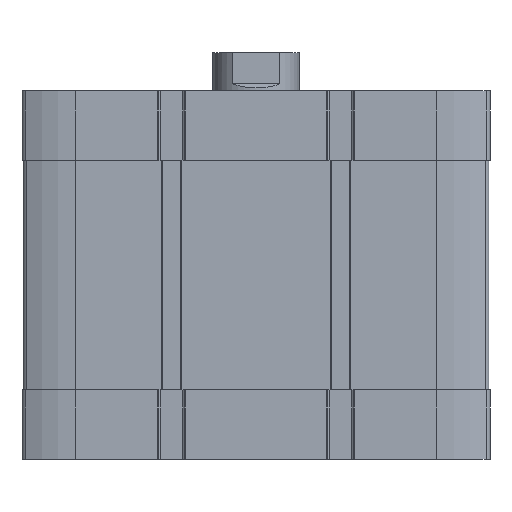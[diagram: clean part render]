
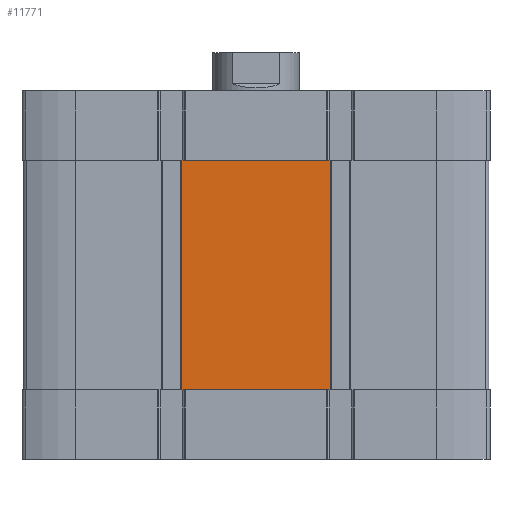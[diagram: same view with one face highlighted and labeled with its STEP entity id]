
A CAD part, front view. The second image highlights one B-rep face of the part: STEP entity #11771.
In plain terms, the highlighted planar face has unit normal (0, -1, 0).
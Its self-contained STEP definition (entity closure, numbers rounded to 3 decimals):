
#38 = DIRECTION ( 'NONE',  ( 0., 0., 1. ) ) ;
#131 = DIRECTION ( 'NONE',  ( 1., 0., 0. ) ) ;
#665 = CARTESIAN_POINT ( 'NONE',  ( 21.3, -67., -86. ) ) ;
#1025 = CARTESIAN_POINT ( 'NONE',  ( -67., -67., -86. ) ) ;
#1179 = DIRECTION ( 'NONE',  ( 0., -1., 0. ) ) ;
#1511 = FACE_OUTER_BOUND ( 'NONE', #2891, .T. ) ;
#1650 = LINE ( 'NONE', #9729, #1730 ) ;
#1713 = LINE ( 'NONE', #665, #4602 ) ;
#1730 = VECTOR ( 'NONE', #10945, 1000. ) ;
#1736 = ORIENTED_EDGE ( 'NONE', *, *, #11714, .F. ) ;
#1777 = ORIENTED_EDGE ( 'NONE', *, *, #9377, .F. ) ;
#2202 = LINE ( 'NONE', #3342, #16304 ) ;
#2855 = VERTEX_POINT ( 'NONE', #13715 ) ;
#2867 = CARTESIAN_POINT ( 'NONE',  ( -20.687, -67., -86. ) ) ;
#2891 = EDGE_LOOP ( 'NONE', ( #8638, #7775, #14493, #13650, #14197, #1777, #1736, #16740 ) ) ;
#3225 = EDGE_CURVE ( 'NONE', #13394, #14555, #1713, .T. ) ;
#3342 = CARTESIAN_POINT ( 'NONE',  ( -67., -67., -86. ) ) ;
#3973 = DIRECTION ( 'NONE',  ( 0., 0., -1. ) ) ;
#4572 = EDGE_CURVE ( 'NONE', #14575, #6416, #6985, .T. ) ;
#4602 = VECTOR ( 'NONE', #7186, 1000. ) ;
#4723 = LINE ( 'NONE', #10020, #5794 ) ;
#4875 = EDGE_CURVE ( 'NONE', #10974, #13394, #11636, .T. ) ;
#5355 = CARTESIAN_POINT ( 'NONE',  ( 21.3, -67., -20. ) ) ;
#5794 = VECTOR ( 'NONE', #8703, 1000. ) ;
#6368 = CARTESIAN_POINT ( 'NONE',  ( -67., -67., -20. ) ) ;
#6416 = VERTEX_POINT ( 'NONE', #10252 ) ;
#6565 = CARTESIAN_POINT ( 'NONE',  ( 21.3, -67., -86. ) ) ;
#6738 = LINE ( 'NONE', #9423, #12681 ) ;
#6816 = CARTESIAN_POINT ( 'NONE',  ( -67., -67., -86. ) ) ;
#6985 = LINE ( 'NONE', #11933, #16768 ) ;
#7186 = DIRECTION ( 'NONE',  ( 0., 0., 1. ) ) ;
#7620 = CARTESIAN_POINT ( 'NONE',  ( 20.687, -67., -86. ) ) ;
#7726 = VERTEX_POINT ( 'NONE', #2867 ) ;
#7775 = ORIENTED_EDGE ( 'NONE', *, *, #16170, .T. ) ;
#8440 = VERTEX_POINT ( 'NONE', #11142 ) ;
#8638 = ORIENTED_EDGE ( 'NONE', *, *, #4572, .F. ) ;
#8703 = DIRECTION ( 'NONE',  ( 1., 0., 0. ) ) ;
#8956 = LINE ( 'NONE', #6368, #10580 ) ;
#8965 = VECTOR ( 'NONE', #10675, 1000. ) ;
#9377 = EDGE_CURVE ( 'NONE', #8440, #14555, #8956, .T. ) ;
#9423 = CARTESIAN_POINT ( 'NONE',  ( -21.3, -67., -20. ) ) ;
#9729 = CARTESIAN_POINT ( 'NONE',  ( -67., -67., -20. ) ) ;
#9881 = EDGE_CURVE ( 'NONE', #6416, #2855, #1650, .T. ) ;
#10020 = CARTESIAN_POINT ( 'NONE',  ( -21.3, -67., -86. ) ) ;
#10171 = AXIS2_PLACEMENT_3D ( 'NONE', #6816, #1179, #3973 ) ;
#10252 = CARTESIAN_POINT ( 'NONE',  ( -21.3, -67., -20. ) ) ;
#10580 = VECTOR ( 'NONE', #11667, 1000. ) ;
#10675 = DIRECTION ( 'NONE',  ( 1., 0., 0. ) ) ;
#10945 = DIRECTION ( 'NONE',  ( 1., 0., 0. ) ) ;
#10974 = VERTEX_POINT ( 'NONE', #7620 ) ;
#11142 = CARTESIAN_POINT ( 'NONE',  ( 20.687, -67., -20. ) ) ;
#11636 = LINE ( 'NONE', #1025, #8965 ) ;
#11667 = DIRECTION ( 'NONE',  ( 1., 0., 0. ) ) ;
#11714 = EDGE_CURVE ( 'NONE', #2855, #8440, #6738, .T. ) ;
#11771 = ADVANCED_FACE ( 'NONE', ( #1511 ), #15875, .T. ) ;
#11933 = CARTESIAN_POINT ( 'NONE',  ( -21.3, -67., -86. ) ) ;
#12681 = VECTOR ( 'NONE', #131, 1000. ) ;
#13394 = VERTEX_POINT ( 'NONE', #6565 ) ;
#13650 = ORIENTED_EDGE ( 'NONE', *, *, #4875, .T. ) ;
#13715 = CARTESIAN_POINT ( 'NONE',  ( -20.687, -67., -20. ) ) ;
#14197 = ORIENTED_EDGE ( 'NONE', *, *, #3225, .T. ) ;
#14493 = ORIENTED_EDGE ( 'NONE', *, *, #15062, .T. ) ;
#14555 = VERTEX_POINT ( 'NONE', #5355 ) ;
#14575 = VERTEX_POINT ( 'NONE', #14910 ) ;
#14910 = CARTESIAN_POINT ( 'NONE',  ( -21.3, -67., -86. ) ) ;
#15062 = EDGE_CURVE ( 'NONE', #7726, #10974, #4723, .T. ) ;
#15404 = DIRECTION ( 'NONE',  ( 1., 0., 0. ) ) ;
#15875 = PLANE ( 'NONE',  #10171 ) ;
#16170 = EDGE_CURVE ( 'NONE', #14575, #7726, #2202, .T. ) ;
#16304 = VECTOR ( 'NONE', #15404, 1000. ) ;
#16740 = ORIENTED_EDGE ( 'NONE', *, *, #9881, .F. ) ;
#16768 = VECTOR ( 'NONE', #38, 1000. ) ;
